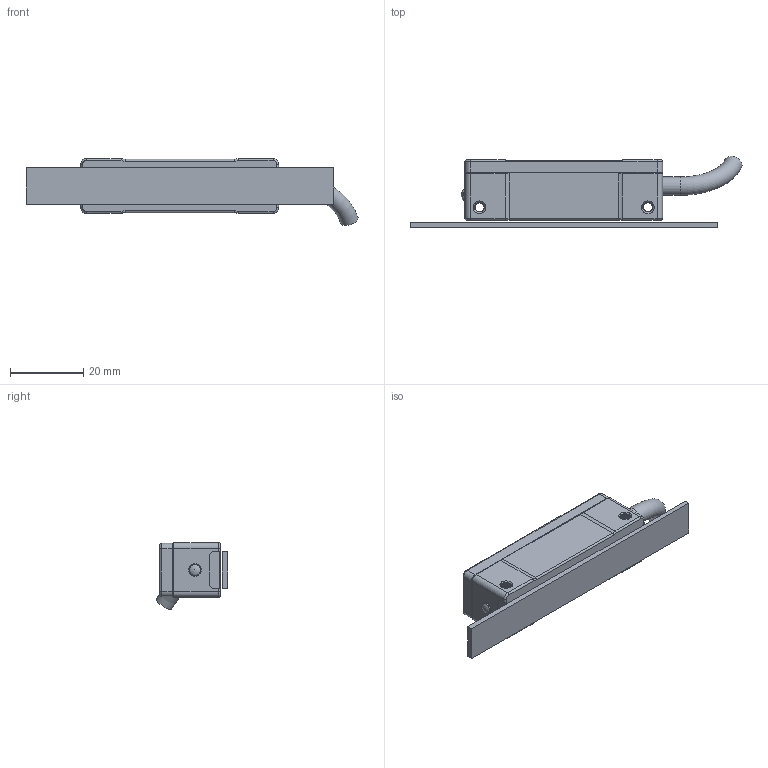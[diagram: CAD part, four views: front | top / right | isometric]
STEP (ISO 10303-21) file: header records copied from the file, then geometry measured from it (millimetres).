
FILE_DESCRIPTION(/* description */ (''),/* implementation_level */ '2;1');
FILE_NAME(/* name */ 'ELS-001.stp',/* time_stamp */ '2025-11-26T17:47:23+08:00',/* author */ (''),/* organization */ (''),/* preprocessor_version */ 'ST-DEVELOPER v15',/* originating_system */ 'SIEMENS PLM Software NX 8.5',/* authorisation */ '');
FILE_SCHEMA (('AUTOMOTIVE_DESIGN { 1 0 10303 214 3 1 1 1 }'));
Length unit declared in the file: millimetre
Products named in the file (1): LeiX37084D049ydm
Bounding box: 90.7 x 19.53 x 18.29 mm (x, y, z)
Volume: 14432.8 mm3; surface area: 6744.4 mm2
Topology: 2 solids, 6 shells, 179 faces, 423 edges, 269 vertices
Faces by surface type: plane 89, cylinder 50, cone 21, torus 14, bspline 4, sphere 1
Full cylindrical faces by diameter (mm): 1.6 x4, 1.8 x4, 3 x4, 3.4 x1, 3.5 x4, 5 x1
Entity records: 19682 total; most frequent: CARTESIAN_POINT 15760, DIRECTION 816, ORIENTED_EDGE 726, EDGE_CURVE 363, AXIS2_PLACEMENT_3D 307, VERTEX_POINT 243, EDGE_LOOP 238, LINE 202
